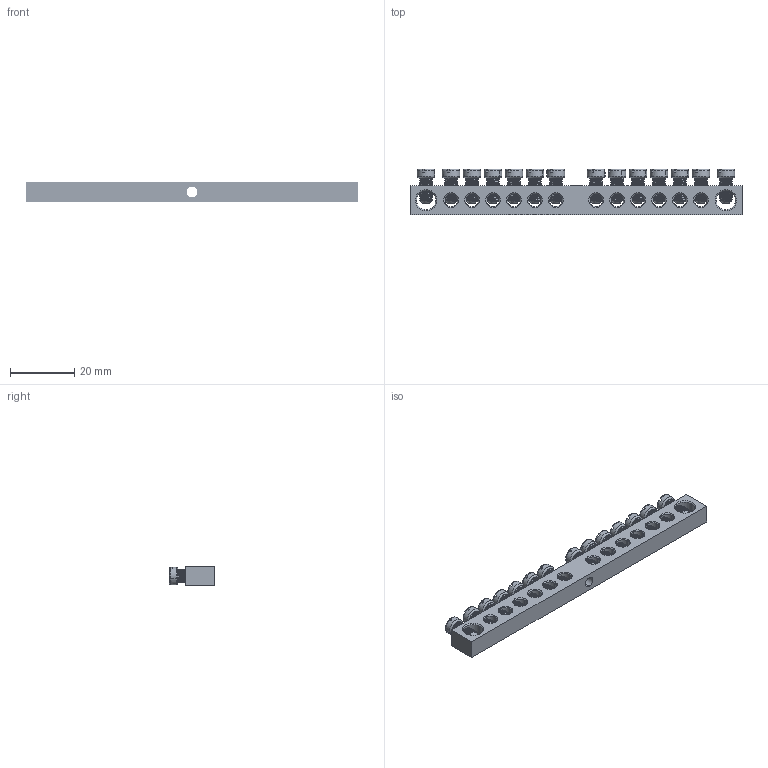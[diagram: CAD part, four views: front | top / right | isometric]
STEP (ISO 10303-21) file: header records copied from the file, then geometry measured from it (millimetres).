
FILE_DESCRIPTION (( 'STEP AP214' ), '1' );
FILE_NAME ('277979 Optikit BB-PEN-S-14-6õ9-1.STEP', '2020-02-06T13:20:48', ( '' ), ( '' ), 'SwSTEP 2.0', 'SolidWorks 2018', '' );
FILE_SCHEMA (( 'AUTOMOTIVE_DESIGN' ));
Length unit declared in the file: millimetre
Products named in the file (3): Âèíò ì4; Øèíà 6õ9 14 1; 277979 Optikit BB-PEN-S-14-6õ9-1
Assembly tree (15 placements, depth 2):
  277979 Optikit BB-PEN-S-14-6õ9-1
    Øèíà 6õ9 14 1
    Âèíò ì4  x14
Bounding box: 103 x 14.1 x 6 mm (x, y, z)
Volume: 5848.1 mm3; surface area: 7239.9 mm2
Topology: 15 solids, 15 shells, 1100 faces, 3056 edges, 1972 vertices
Faces by surface type: plane 384, cylinder 380, cone 182, torus 98, bspline 56
Entity records: 9035 total; most frequent: CARTESIAN_POINT 3890, ORIENTED_EDGE 986, DIRECTION 968, EDGE_CURVE 493, AXIS2_PLACEMENT_3D 385, VERTEX_POINT 308, EDGE_LOOP 249, VECTOR 198
